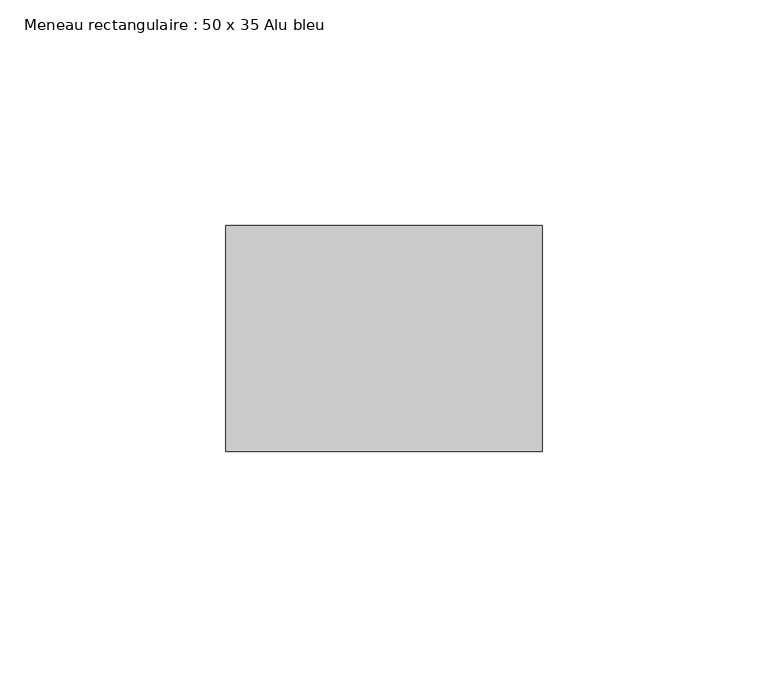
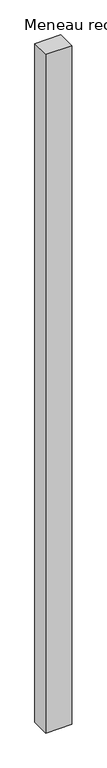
"""IFC4 building model written with IfcOpenShell, lengths in millimetres: member geometry, Meneau rectangulaire : 50 x 35 Alu bleu."""

from ifc_helpers import new_model, si_unit, frame, origin, place, context, project, spatial, polyline, outline, extrude, source, transform, mapped, element, save


def meneau_rectangulaire_50_x_35_alu_bleu_2d7af929(model_context):
    return source(origin(), model_context, "Body", "SweptSolid", [
        extrude(outline(polyline([(0.0, 0.0), (0.0, -50.0), (-70.0, -50.0), (-70.0, 0.0), (0.0, 0.0)])), frame((0.0, 0.0, -1929.4492122), z_axis=(0.0, 0.0, 1.0), x_axis=(1.0, 0.0, 0.0)), (0.0, 0.0, 1.0), 1929.4492122),
    ])


if __name__ == "__main__":
    model = new_model("IFC4")
    model_context = context("Model", 3, world=origin())
    ifc_project = project(units=[si_unit("LENGTHUNIT", "METRE", prefix="MILLI")], contexts=[model_context])
    site = spatial("IfcSite", under=ifc_project)
    building = spatial("IfcBuilding", under=site)
    placement = place(None, origin())
    meneau_rectangulaire_50_x_35_alu_bleu_shape = meneau_rectangulaire_50_x_35_alu_bleu_2d7af929(model_context)
    element("IfcMember", 1, ObjectType="Meneau rectangulaire : 50 x 35 Alu bleu", at=placement, inside=building, context=model_context, shape_type="MappedRepresentation", body=[
        mapped(meneau_rectangulaire_50_x_35_alu_bleu_shape, transform((0.0, 0.0, 0.0), x_axis=(1.0, 0.0, 0.0), y_axis=(0.0, 1.0, 0.0), z_axis=(0.0, 0.0, 1.0))),
    ])
    save(model, "model.ifc")
